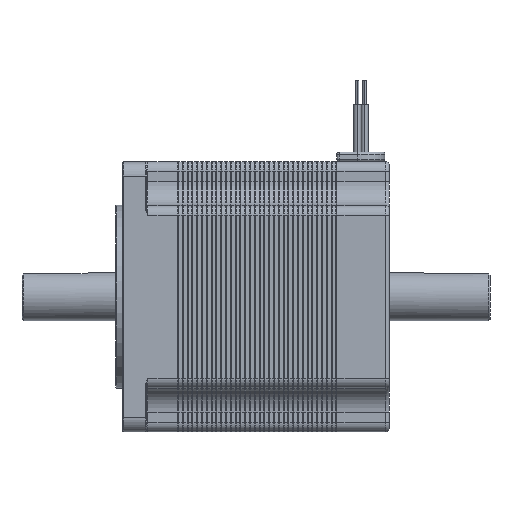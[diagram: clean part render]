
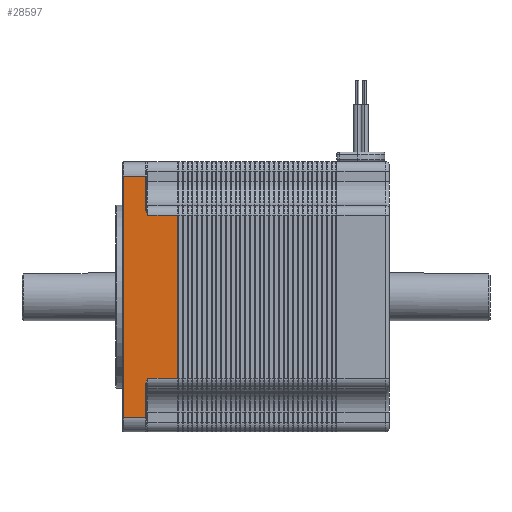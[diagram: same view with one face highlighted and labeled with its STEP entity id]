
A CAD part, left-side view. The second image highlights one B-rep face of the part: STEP entity #28597.
In plain terms, the highlighted planar face has unit normal (-1, 0, 0).
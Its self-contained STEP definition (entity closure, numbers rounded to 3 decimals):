
#4237 = VERTEX_POINT ( 'NONE', #97073 ) ;
#4379 = LINE ( 'NONE', #49606, #48177 ) ;
#6763 = CARTESIAN_POINT ( 'NONE',  ( -28.15, 50.7, 25.15 ) ) ;
#7420 = ORIENTED_EDGE ( 'NONE', *, *, #29997, .T. ) ;
#7846 = CARTESIAN_POINT ( 'NONE',  ( -28.15, 50.491, -17.403 ) ) ;
#8156 = LINE ( 'NONE', #27533, #83112 ) ;
#8837 = DIRECTION ( 'NONE',  ( 0., 1., 0. ) ) ;
#9189 = VERTEX_POINT ( 'NONE', #6763 ) ;
#9421 = CARTESIAN_POINT ( 'NONE',  ( -28.15, 55.5, -17. ) ) ;
#16029 = CARTESIAN_POINT ( 'NONE',  ( -28.15, 55.3, -25.15 ) ) ;
#17407 = CARTESIAN_POINT ( 'NONE',  ( -28.15, 44.1, -17. ) ) ;
#18083 = ORIENTED_EDGE ( 'NONE', *, *, #37015, .T. ) ;
#21589 = ORIENTED_EDGE ( 'NONE', *, *, #116413, .T. ) ;
#22536 = ORIENTED_EDGE ( 'NONE', *, *, #109449, .T. ) ;
#24638 = VERTEX_POINT ( 'NONE', #43921 ) ;
#25789 = CARTESIAN_POINT ( 'NONE',  ( -28.15, 50.7, 18.04 ) ) ;
#26536 = B_SPLINE_CURVE_WITH_KNOTS ( 'NONE', 3,
 ( #101239, #64425, #117584, #92191, #25789, #46206 ),
 .UNSPECIFIED., .F., .F.,
 ( 4, 2, 4 ),
 ( 0., 0.001, 0.001 ),
 .UNSPECIFIED. ) ;
#27461 = CARTESIAN_POINT ( 'NONE',  ( -28.15, 55.3, -25.15 ) ) ;
#27533 = CARTESIAN_POINT ( 'NONE',  ( -28.15, 50.7, -17. ) ) ;
#27812 = CARTESIAN_POINT ( 'NONE',  ( -28.15, 50.7, -25.15 ) ) ;
#28086 = VECTOR ( 'NONE', #55734, 1000. ) ;
#28597 = ADVANCED_FACE ( 'NONE', ( #57952 ), #58556, .F. ) ;
#29156 = EDGE_CURVE ( 'NONE', #69744, #24638, #83133, .T. ) ;
#29582 = VECTOR ( 'NONE', #90450, 1000. ) ;
#29997 = EDGE_CURVE ( 'NONE', #9189, #4237, #102467, .T. ) ;
#31630 = B_SPLINE_CURVE_WITH_KNOTS ( 'NONE', 3,
 ( #54903, #35611, #53712, #7846, #44603, #81559 ),
 .UNSPECIFIED., .F., .F.,
 ( 4, 2, 4 ),
 ( 0., 0.001, 0.001 ),
 .UNSPECIFIED. ) ;
#33013 = CARTESIAN_POINT ( 'NONE',  ( -28.15, 50.3, -17. ) ) ;
#34643 = VECTOR ( 'NONE', #8837, 1000. ) ;
#35611 = CARTESIAN_POINT ( 'NONE',  ( -28.15, 50.7, -18.04 ) ) ;
#36356 = CARTESIAN_POINT ( 'NONE',  ( -28.15, 50.3, 17. ) ) ;
#37015 = EDGE_CURVE ( 'NONE', #4237, #99503, #44902, .T. ) ;
#38994 = CARTESIAN_POINT ( 'NONE',  ( -28.15, 50.5, 25.15 ) ) ;
#40569 = DIRECTION ( 'NONE',  ( 0., -1., 0. ) ) ;
#40614 = ORIENTED_EDGE ( 'NONE', *, *, #41040, .T. ) ;
#41040 = EDGE_CURVE ( 'NONE', #61223, #69744, #31630, .T. ) ;
#43746 = CARTESIAN_POINT ( 'NONE',  ( -28.15, 44.1, 17. ) ) ;
#43921 = CARTESIAN_POINT ( 'NONE',  ( -28.15, 44.1, -17. ) ) ;
#44603 = CARTESIAN_POINT ( 'NONE',  ( -28.15, 50.395, -17.201 ) ) ;
#44902 = LINE ( 'NONE', #16029, #65183 ) ;
#45035 = ORIENTED_EDGE ( 'NONE', *, *, #29156, .T. ) ;
#46206 = CARTESIAN_POINT ( 'NONE',  ( -28.15, 50.7, 18.265 ) ) ;
#47666 = EDGE_LOOP ( 'NONE', ( #7420, #18083, #77932, #21589, #40614, #45035, #113856, #50908, #67174, #22536 ) ) ;
#48177 = VECTOR ( 'NONE', #40569, 1000. ) ;
#48415 = CARTESIAN_POINT ( 'NONE',  ( -28.15, 50.7, 18.265 ) ) ;
#49606 = CARTESIAN_POINT ( 'NONE',  ( -28.15, 55.5, 17. ) ) ;
#50908 = ORIENTED_EDGE ( 'NONE', *, *, #71181, .F. ) ;
#53712 = CARTESIAN_POINT ( 'NONE',  ( -28.15, 50.642, -17.823 ) ) ;
#54903 = CARTESIAN_POINT ( 'NONE',  ( -28.15, 50.7, -18.265 ) ) ;
#55734 = DIRECTION ( 'NONE',  ( 0., 1., 0. ) ) ;
#57952 = FACE_OUTER_BOUND ( 'NONE', #47666, .T. ) ;
#58556 = PLANE ( 'NONE',  #80652 ) ;
#60327 = DIRECTION ( 'NONE',  ( 0., 0., -1. ) ) ;
#61223 = VERTEX_POINT ( 'NONE', #73806 ) ;
#63807 = DIRECTION ( 'NONE',  ( 0., -1., 0. ) ) ;
#64425 = CARTESIAN_POINT ( 'NONE',  ( -28.15, 50.395, 17.202 ) ) ;
#65183 = VECTOR ( 'NONE', #89653, 1000. ) ;
#67174 = ORIENTED_EDGE ( 'NONE', *, *, #97806, .T. ) ;
#69722 = LINE ( 'NONE', #90113, #74673 ) ;
#69744 = VERTEX_POINT ( 'NONE', #33013 ) ;
#71181 = EDGE_CURVE ( 'NONE', #108572, #91779, #4379, .T. ) ;
#72416 = LINE ( 'NONE', #17407, #29582 ) ;
#73806 = CARTESIAN_POINT ( 'NONE',  ( -28.15, 50.7, -18.265 ) ) ;
#74673 = VECTOR ( 'NONE', #88945, 1000. ) ;
#77191 = VERTEX_POINT ( 'NONE', #48415 ) ;
#77932 = ORIENTED_EDGE ( 'NONE', *, *, #96072, .F. ) ;
#80652 = AXIS2_PLACEMENT_3D ( 'NONE', #104504, #115921, #60327 ) ;
#81559 = CARTESIAN_POINT ( 'NONE',  ( -28.15, 50.3, -17. ) ) ;
#81798 = CARTESIAN_POINT ( 'NONE',  ( -28.15, 50.5, -25.15 ) ) ;
#82965 = LINE ( 'NONE', #81798, #28086 ) ;
#83112 = VECTOR ( 'NONE', #107863, 1000. ) ;
#83133 = LINE ( 'NONE', #9421, #97945 ) ;
#88945 = DIRECTION ( 'NONE',  ( 0., 0., 1. ) ) ;
#89653 = DIRECTION ( 'NONE',  ( 0., 0., -1. ) ) ;
#90113 = CARTESIAN_POINT ( 'NONE',  ( -28.15, 50.7, -17. ) ) ;
#90450 = DIRECTION ( 'NONE',  ( 0., 0., 1. ) ) ;
#91414 = EDGE_CURVE ( 'NONE', #24638, #91779, #72416, .T. ) ;
#91779 = VERTEX_POINT ( 'NONE', #43746 ) ;
#92191 = CARTESIAN_POINT ( 'NONE',  ( -28.15, 50.642, 17.823 ) ) ;
#96072 = EDGE_CURVE ( 'NONE', #117678, #99503, #82965, .T. ) ;
#97073 = CARTESIAN_POINT ( 'NONE',  ( -28.15, 55.3, 25.15 ) ) ;
#97806 = EDGE_CURVE ( 'NONE', #108572, #77191, #26536, .T. ) ;
#97945 = VECTOR ( 'NONE', #63807, 1000. ) ;
#99503 = VERTEX_POINT ( 'NONE', #27461 ) ;
#101239 = CARTESIAN_POINT ( 'NONE',  ( -28.15, 50.3, 17. ) ) ;
#102467 = LINE ( 'NONE', #38994, #34643 ) ;
#104504 = CARTESIAN_POINT ( 'NONE',  ( -28.15, 55.5, -17. ) ) ;
#107863 = DIRECTION ( 'NONE',  ( 0., 0., 1. ) ) ;
#108572 = VERTEX_POINT ( 'NONE', #36356 ) ;
#109449 = EDGE_CURVE ( 'NONE', #77191, #9189, #8156, .T. ) ;
#113856 = ORIENTED_EDGE ( 'NONE', *, *, #91414, .T. ) ;
#115921 = DIRECTION ( 'NONE',  ( 1., 0., 0. ) ) ;
#116413 = EDGE_CURVE ( 'NONE', #117678, #61223, #69722, .T. ) ;
#117584 = CARTESIAN_POINT ( 'NONE',  ( -28.15, 50.491, 17.403 ) ) ;
#117678 = VERTEX_POINT ( 'NONE', #27812 ) ;
